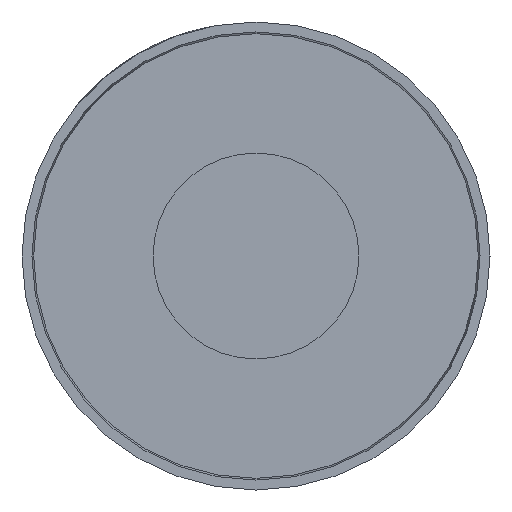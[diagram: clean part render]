
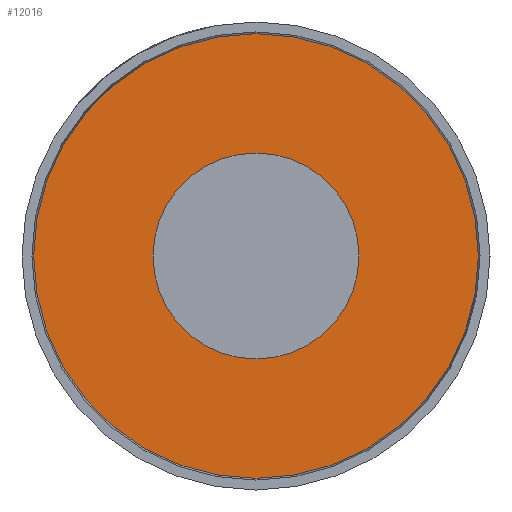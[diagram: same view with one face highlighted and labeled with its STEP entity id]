
A CAD part, left-side view. The second image highlights one B-rep face of the part: STEP entity #12016.
In plain terms, the highlighted planar face has unit normal (-1, 0, 0).
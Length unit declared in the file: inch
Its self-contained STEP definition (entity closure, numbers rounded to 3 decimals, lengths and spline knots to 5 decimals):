
#62 = DIRECTION ( 'NONE',  ( 0., 0., -1. ) ) ;
#607 = FACE_BOUND ( 'NONE', #8851, .T. ) ;
#1458 = VERTEX_POINT ( 'NONE', #16918 ) ;
#1579 = DIRECTION ( 'NONE',  ( 1., 0., 0. ) ) ;
#2718 = VERTEX_POINT ( 'NONE', #8599 ) ;
#3369 = DIRECTION ( 'NONE',  ( -1., 0., 0. ) ) ;
#3429 = EDGE_CURVE ( 'NONE', #1458, #16906, #6361, .T. ) ;
#3443 = FACE_OUTER_BOUND ( 'NONE', #5302, .T. ) ;
#4492 = EDGE_CURVE ( 'NONE', #2718, #9254, #5897, .T. ) ;
#4930 = DIRECTION ( 'NONE',  ( 0., 0., -1. ) ) ;
#4964 = DIRECTION ( 'NONE',  ( 0., 0., 1. ) ) ;
#5132 = PLANE ( 'NONE',  #5320 ) ;
#5266 = ORIENTED_EDGE ( 'NONE', *, *, #4492, .F. ) ;
#5302 = EDGE_LOOP ( 'NONE', ( #19136, #19309 ) ) ;
#5320 = AXIS2_PLACEMENT_3D ( 'NONE', #15979, #17697, #4930 ) ;
#5546 = CIRCLE ( 'NONE', #17854, 0.2375 ) ;
#5897 = CIRCLE ( 'NONE', #11743, 0.11 ) ;
#6361 = CIRCLE ( 'NONE', #6685, 0.2375 ) ;
#6388 = CARTESIAN_POINT ( 'NONE',  ( 0., 0., 0. ) ) ;
#6481 = DIRECTION ( 'NONE',  ( 0., 0., 1. ) ) ;
#6685 = AXIS2_PLACEMENT_3D ( 'NONE', #13810, #1579, #62 ) ;
#6746 = DIRECTION ( 'NONE',  ( 0., 0., -1. ) ) ;
#7152 = CARTESIAN_POINT ( 'NONE',  ( 0., 0., -0.11 ) ) ;
#8599 = CARTESIAN_POINT ( 'NONE',  ( 0., 0., 0.11 ) ) ;
#8851 = EDGE_LOOP ( 'NONE', ( #5266, #19727 ) ) ;
#9254 = VERTEX_POINT ( 'NONE', #7152 ) ;
#9533 = DIRECTION ( 'NONE',  ( -1., 0., 0. ) ) ;
#11420 = DIRECTION ( 'NONE',  ( 1., 0., 0. ) ) ;
#11743 = AXIS2_PLACEMENT_3D ( 'NONE', #6388, #9533, #6481 ) ;
#12016 = ADVANCED_FACE ( 'NONE', ( #607, #3443 ), #5132, .F. ) ;
#13810 = CARTESIAN_POINT ( 'NONE',  ( 0., 0., 0. ) ) ;
#14056 = AXIS2_PLACEMENT_3D ( 'NONE', #14211, #3369, #4964 ) ;
#14211 = CARTESIAN_POINT ( 'NONE',  ( 0., 0., 0. ) ) ;
#14594 = EDGE_CURVE ( 'NONE', #9254, #2718, #16299, .T. ) ;
#15965 = CARTESIAN_POINT ( 'NONE',  ( 0., 0., 0. ) ) ;
#15979 = CARTESIAN_POINT ( 'NONE',  ( 0., 0., 0. ) ) ;
#16299 = CIRCLE ( 'NONE', #14056, 0.11 ) ;
#16705 = CARTESIAN_POINT ( 'NONE',  ( 0., 0., -0.2375 ) ) ;
#16906 = VERTEX_POINT ( 'NONE', #16705 ) ;
#16918 = CARTESIAN_POINT ( 'NONE',  ( 0., 0., 0.2375 ) ) ;
#17697 = DIRECTION ( 'NONE',  ( 1., 0., 0. ) ) ;
#17854 = AXIS2_PLACEMENT_3D ( 'NONE', #15965, #11420, #6746 ) ;
#18592 = EDGE_CURVE ( 'NONE', #16906, #1458, #5546, .T. ) ;
#19136 = ORIENTED_EDGE ( 'NONE', *, *, #18592, .F. ) ;
#19309 = ORIENTED_EDGE ( 'NONE', *, *, #3429, .F. ) ;
#19727 = ORIENTED_EDGE ( 'NONE', *, *, #14594, .F. ) ;
